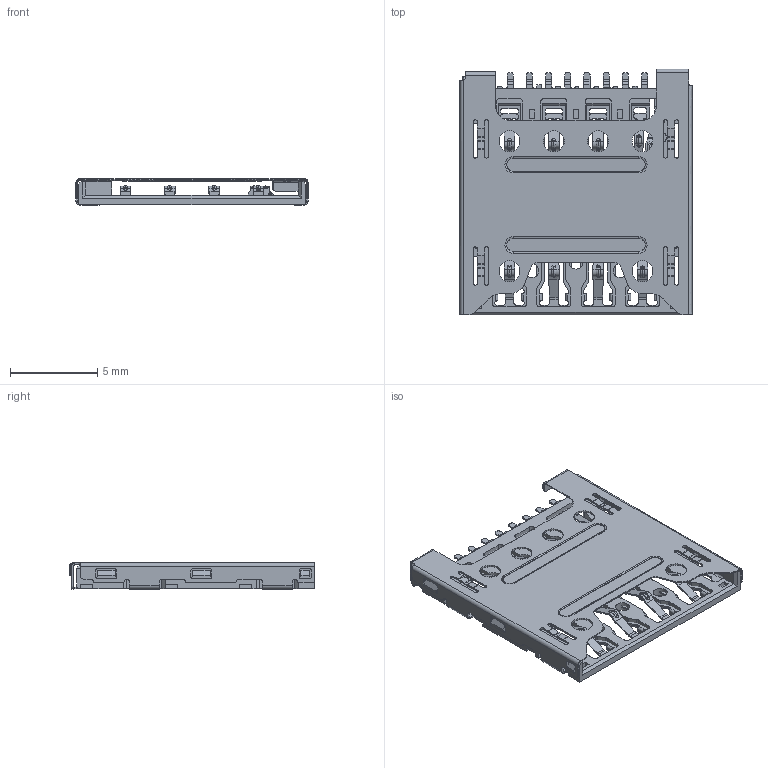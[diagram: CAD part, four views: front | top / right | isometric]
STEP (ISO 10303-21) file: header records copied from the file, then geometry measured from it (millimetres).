
FILE_DESCRIPTION(('FreeCAD Model'),'2;1');
FILE_NAME('C:/Temp/DWG/M397.step','2021-08-04T16:18:39',('Author'),(''), 'Open CASCADE STEP processor 7.3','FreeCAD','Unknown');
FILE_SCHEMA(('AUTOMOTIVE_DESIGN { 1 0 10303 214 1 1 1 1 }'));
Length unit declared in the file: millimetre
Products named in the file (3): Shell_Bottom; Contacts; Shell_Top
Bounding box: 13.4 x 14.08 x 1.5 mm (x, y, z)
Volume: 56.4 mm3; surface area: 1968.3 mm2
Topology: 11 solids, 2342 shells, 7447 faces, 25104 edges, 20011 vertices
Faces by surface type: bspline 4598, revolution 2849
Entity records: 315762 total; most frequent: CARTESIAN_POINT 82532, ORIENTED_EDGE 37956, DIRECTION 36451, EDGE_CURVE 24892, LINE 19770, VECTOR 19770, VERTEX_POINT 19764, FACE_BOUND 7690
